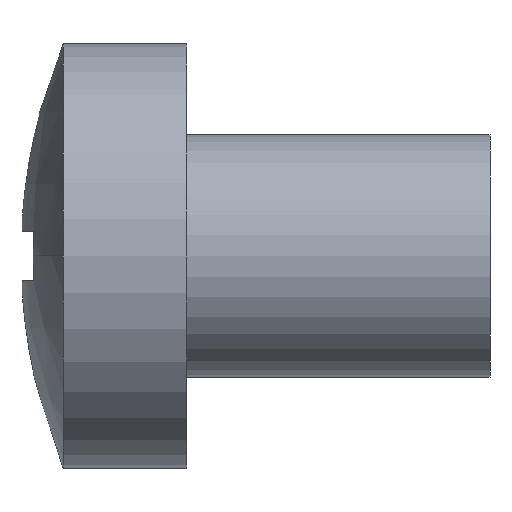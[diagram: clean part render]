
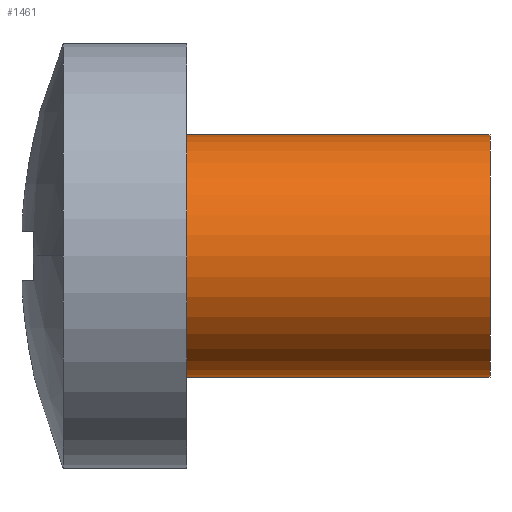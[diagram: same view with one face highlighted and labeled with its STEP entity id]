
A CAD part, front view. The second image highlights one B-rep face of the part: STEP entity #1461.
In plain terms, the highlighted cylindrical face has radius 2 mm (diameter 4 mm), a partial arc.
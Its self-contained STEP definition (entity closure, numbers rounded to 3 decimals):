
#124 = PLANE('',#125);
#125 = AXIS2_PLACEMENT_3D('',#126,#127,#128);
#126 = CARTESIAN_POINT('',(2.75,2.35,0.));
#127 = DIRECTION('',(1.,0.,-0.));
#128 = DIRECTION('',(-0.,0.,-1.));
#212 = VERTEX_POINT('',#213);
#213 = CARTESIAN_POINT('',(2.75,0.,-2.));
#214 = VERTEX_POINT('',#215);
#215 = CARTESIAN_POINT('',(2.75,0.,2.));
#223 = CYLINDRICAL_SURFACE('',#224,2.);
#224 = AXIS2_PLACEMENT_3D('',#225,#226,#227);
#225 = CARTESIAN_POINT('',(4.516,0.,0.));
#226 = DIRECTION('',(1.,-0.,-0.));
#227 = DIRECTION('',(0.,0.,-1.));
#242 = EDGE_CURVE('',#214,#243,#245,.T.);
#243 = VERTEX_POINT('',#244);
#244 = CARTESIAN_POINT('',(7.75,0.,2.));
#245 = SURFACE_CURVE('',#246,(#250,#257),.PCURVE_S1.);
#246 = LINE('',#247,#248);
#247 = CARTESIAN_POINT('',(4.516,0.,2.));
#248 = VECTOR('',#249,1.);
#249 = DIRECTION('',(1.,-0.,-0.));
#250 = PCURVE('',#223,#251);
#251 = DEFINITIONAL_REPRESENTATION('',(#252),#256);
#252 = LINE('',#253,#254);
#253 = CARTESIAN_POINT('',(3.142,0.));
#254 = VECTOR('',#255,1.);
#255 = DIRECTION('',(0.,1.));
#256 = ( GEOMETRIC_REPRESENTATION_CONTEXT(2) 
PARAMETRIC_REPRESENTATION_CONTEXT() REPRESENTATION_CONTEXT('2D SPACE',''
  ) );
#257 = PCURVE('',#258,#263);
#258 = CYLINDRICAL_SURFACE('',#259,2.);
#259 = AXIS2_PLACEMENT_3D('',#260,#261,#262);
#260 = CARTESIAN_POINT('',(4.516,0.,0.));
#261 = DIRECTION('',(1.,-0.,-0.));
#262 = DIRECTION('',(0.,0.,-1.));
#263 = DEFINITIONAL_REPRESENTATION('',(#264),#268);
#264 = LINE('',#265,#266);
#265 = CARTESIAN_POINT('',(3.142,0.));
#266 = VECTOR('',#267,1.);
#267 = DIRECTION('',(0.,1.));
#268 = ( GEOMETRIC_REPRESENTATION_CONTEXT(2) 
PARAMETRIC_REPRESENTATION_CONTEXT() REPRESENTATION_CONTEXT('2D SPACE',''
  ) );
#271 = VERTEX_POINT('',#272);
#272 = CARTESIAN_POINT('',(7.75,0.,-2.));
#287 = PLANE('',#288);
#288 = AXIS2_PLACEMENT_3D('',#289,#290,#291);
#289 = CARTESIAN_POINT('',(7.75,2.,0.));
#290 = DIRECTION('',(1.,0.,-0.));
#291 = DIRECTION('',(-0.,0.,-1.));
#299 = EDGE_CURVE('',#212,#271,#300,.T.);
#300 = SURFACE_CURVE('',#301,(#305,#312),.PCURVE_S1.);
#301 = LINE('',#302,#303);
#302 = CARTESIAN_POINT('',(4.516,0.,-2.));
#303 = VECTOR('',#304,1.);
#304 = DIRECTION('',(1.,-0.,-0.));
#305 = PCURVE('',#223,#306);
#306 = DEFINITIONAL_REPRESENTATION('',(#307),#311);
#307 = LINE('',#308,#309);
#308 = CARTESIAN_POINT('',(0.,0.));
#309 = VECTOR('',#310,1.);
#310 = DIRECTION('',(0.,1.));
#311 = ( GEOMETRIC_REPRESENTATION_CONTEXT(2) 
PARAMETRIC_REPRESENTATION_CONTEXT() REPRESENTATION_CONTEXT('2D SPACE',''
  ) );
#312 = PCURVE('',#258,#313);
#313 = DEFINITIONAL_REPRESENTATION('',(#314),#318);
#314 = LINE('',#315,#316);
#315 = CARTESIAN_POINT('',(6.283,0.));
#316 = VECTOR('',#317,1.);
#317 = DIRECTION('',(0.,1.));
#318 = ( GEOMETRIC_REPRESENTATION_CONTEXT(2) 
PARAMETRIC_REPRESENTATION_CONTEXT() REPRESENTATION_CONTEXT('2D SPACE',''
  ) );
#1440 = EDGE_CURVE('',#243,#271,#1441,.T.);
#1441 = SURFACE_CURVE('',#1442,(#1447,#1454),.PCURVE_S1.);
#1442 = CIRCLE('',#1443,2.);
#1443 = AXIS2_PLACEMENT_3D('',#1444,#1445,#1446);
#1444 = CARTESIAN_POINT('',(7.75,0.,0.));
#1445 = DIRECTION('',(1.,-0.,0.));
#1446 = DIRECTION('',(0.,0.,-1.));
#1447 = PCURVE('',#287,#1448);
#1448 = DEFINITIONAL_REPRESENTATION('',(#1449),#1453);
#1449 = CIRCLE('',#1450,2.);
#1450 = AXIS2_PLACEMENT_2D('',#1451,#1452);
#1451 = CARTESIAN_POINT('',(0.,-2.));
#1452 = DIRECTION('',(1.,0.));
#1453 = ( GEOMETRIC_REPRESENTATION_CONTEXT(2) 
PARAMETRIC_REPRESENTATION_CONTEXT() REPRESENTATION_CONTEXT('2D SPACE',''
  ) );
#1454 = PCURVE('',#258,#1455);
#1455 = DEFINITIONAL_REPRESENTATION('',(#1456),#1460);
#1456 = LINE('',#1457,#1458);
#1457 = CARTESIAN_POINT('',(0.,3.234));
#1458 = VECTOR('',#1459,1.);
#1459 = DIRECTION('',(1.,0.));
#1460 = ( GEOMETRIC_REPRESENTATION_CONTEXT(2) 
PARAMETRIC_REPRESENTATION_CONTEXT() REPRESENTATION_CONTEXT('2D SPACE',''
  ) );
#1461 = ADVANCED_FACE('',(#1462),#258,.T.);
#1462 = FACE_BOUND('',#1463,.T.);
#1463 = EDGE_LOOP('',(#1464,#1465,#1487,#1488));
#1464 = ORIENTED_EDGE('',*,*,#242,.F.);
#1465 = ORIENTED_EDGE('',*,*,#1466,.T.);
#1466 = EDGE_CURVE('',#214,#212,#1467,.T.);
#1467 = SURFACE_CURVE('',#1468,(#1473,#1480),.PCURVE_S1.);
#1468 = CIRCLE('',#1469,2.);
#1469 = AXIS2_PLACEMENT_3D('',#1470,#1471,#1472);
#1470 = CARTESIAN_POINT('',(2.75,0.,0.));
#1471 = DIRECTION('',(1.,-0.,0.));
#1472 = DIRECTION('',(0.,0.,-1.));
#1473 = PCURVE('',#258,#1474);
#1474 = DEFINITIONAL_REPRESENTATION('',(#1475),#1479);
#1475 = LINE('',#1476,#1477);
#1476 = CARTESIAN_POINT('',(0.,-1.766));
#1477 = VECTOR('',#1478,1.);
#1478 = DIRECTION('',(1.,0.));
#1479 = ( GEOMETRIC_REPRESENTATION_CONTEXT(2) 
PARAMETRIC_REPRESENTATION_CONTEXT() REPRESENTATION_CONTEXT('2D SPACE',''
  ) );
#1480 = PCURVE('',#124,#1481);
#1481 = DEFINITIONAL_REPRESENTATION('',(#1482),#1486);
#1482 = CIRCLE('',#1483,2.);
#1483 = AXIS2_PLACEMENT_2D('',#1484,#1485);
#1484 = CARTESIAN_POINT('',(0.,-2.35));
#1485 = DIRECTION('',(1.,0.));
#1486 = ( GEOMETRIC_REPRESENTATION_CONTEXT(2) 
PARAMETRIC_REPRESENTATION_CONTEXT() REPRESENTATION_CONTEXT('2D SPACE',''
  ) );
#1487 = ORIENTED_EDGE('',*,*,#299,.T.);
#1488 = ORIENTED_EDGE('',*,*,#1440,.F.);
